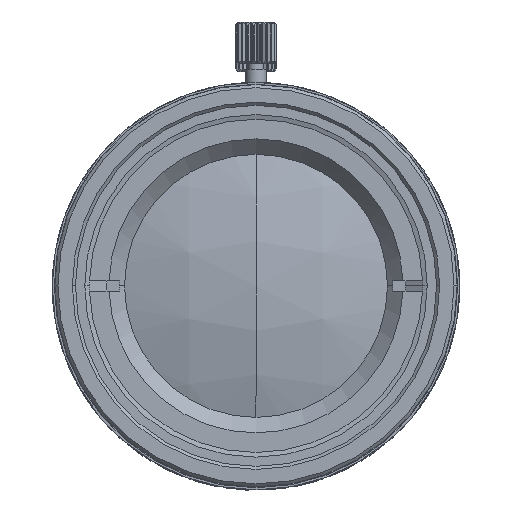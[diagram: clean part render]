
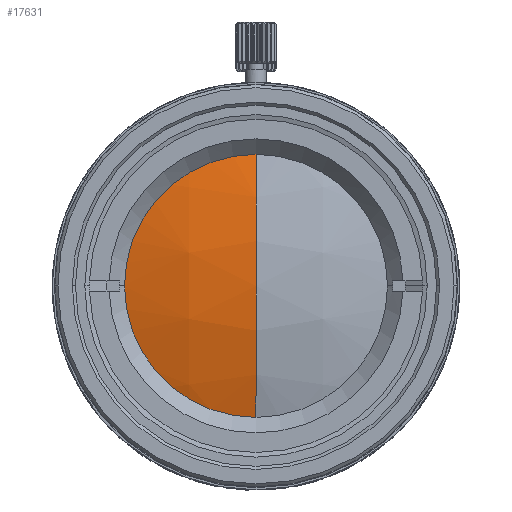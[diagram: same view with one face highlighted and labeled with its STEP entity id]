
A CAD part, top view. The second image highlights one B-rep face of the part: STEP entity #17631.
In plain terms, the highlighted spherical face has radius 42.67 mm.
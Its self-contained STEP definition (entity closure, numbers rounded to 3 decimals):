
#328 = EDGE_CURVE ( 'NONE', #46572, #4397, #42706, .T. ) ;
#1009 = CIRCLE ( 'NONE', #36223, 42.67 ) ;
#2326 = EDGE_CURVE ( 'NONE', #18774, #31689, #46559, .T. ) ;
#3338 = DIRECTION ( 'NONE',  ( 0., 0., -1. ) ) ;
#3514 = CARTESIAN_POINT ( 'NONE',  ( 0., 0., 38.287 ) ) ;
#4118 = DIRECTION ( 'NONE',  ( 0., 1., 0. ) ) ;
#4397 = VERTEX_POINT ( 'NONE', #49810 ) ;
#6634 = DIRECTION ( 'NONE',  ( -1., 0., 0. ) ) ;
#7198 = DIRECTION ( 'NONE',  ( 0., 0., 1. ) ) ;
#7689 = DIRECTION ( 'NONE',  ( -1., 0., 0. ) ) ;
#11971 = AXIS2_PLACEMENT_3D ( 'NONE', #3514, #44591, #4118 ) ;
#14378 = EDGE_CURVE ( 'NONE', #31689, #46572, #26466, .T. ) ;
#15545 = CARTESIAN_POINT ( 'NONE',  ( 0., 0., 78.987 ) ) ;
#17631 = ADVANCED_FACE ( 'NONE', ( #35407 ), #26742, .T. ) ;
#18774 = VERTEX_POINT ( 'NONE', #23511 ) ;
#18961 = AXIS2_PLACEMENT_3D ( 'NONE', #15545, #28374, #6634 ) ;
#22250 = ORIENTED_EDGE ( 'NONE', *, *, #22955, .F. ) ;
#22955 = EDGE_CURVE ( 'NONE', #18774, #4397, #1009, .T. ) ;
#23511 = CARTESIAN_POINT ( 'NONE',  ( 0., 12.816, 78.987 ) ) ;
#24177 = DIRECTION ( 'NONE',  ( -1., 0., 0. ) ) ;
#25845 = DIRECTION ( 'NONE',  ( 0., -1., 0. ) ) ;
#26251 = CARTESIAN_POINT ( 'NONE',  ( 0., 0., 38.287 ) ) ;
#26466 = CIRCLE ( 'NONE', #46435, 12.816 ) ;
#26700 = CARTESIAN_POINT ( 'NONE',  ( 0., -12.816, 78.987 ) ) ;
#26742 = SPHERICAL_SURFACE ( 'NONE', #11971, 42.67 ) ;
#28374 = DIRECTION ( 'NONE',  ( 0., 0., 1. ) ) ;
#30318 = CARTESIAN_POINT ( 'NONE',  ( 0., 0., 38.287 ) ) ;
#31689 = VERTEX_POINT ( 'NONE', #44392 ) ;
#35407 = FACE_OUTER_BOUND ( 'NONE', #47579, .T. ) ;
#36223 = AXIS2_PLACEMENT_3D ( 'NONE', #26251, #44125, #3338 ) ;
#42706 = CIRCLE ( 'NONE', #44615, 42.67 ) ;
#42889 = ORIENTED_EDGE ( 'NONE', *, *, #328, .T. ) ;
#44125 = DIRECTION ( 'NONE',  ( 1., 0., 0. ) ) ;
#44392 = CARTESIAN_POINT ( 'NONE',  ( -12.816, 0., 78.987 ) ) ;
#44591 = DIRECTION ( 'NONE',  ( -1., 0., 0. ) ) ;
#44615 = AXIS2_PLACEMENT_3D ( 'NONE', #30318, #7689, #25845 ) ;
#46435 = AXIS2_PLACEMENT_3D ( 'NONE', #51242, #7198, #24177 ) ;
#46559 = CIRCLE ( 'NONE', #18961, 12.816 ) ;
#46572 = VERTEX_POINT ( 'NONE', #26700 ) ;
#47093 = ORIENTED_EDGE ( 'NONE', *, *, #2326, .T. ) ;
#47579 = EDGE_LOOP ( 'NONE', ( #47093, #51430, #42889, #22250 ) ) ;
#49810 = CARTESIAN_POINT ( 'NONE',  ( 0., 0., 80.957 ) ) ;
#51242 = CARTESIAN_POINT ( 'NONE',  ( 0., 0., 78.987 ) ) ;
#51430 = ORIENTED_EDGE ( 'NONE', *, *, #14378, .T. ) ;
